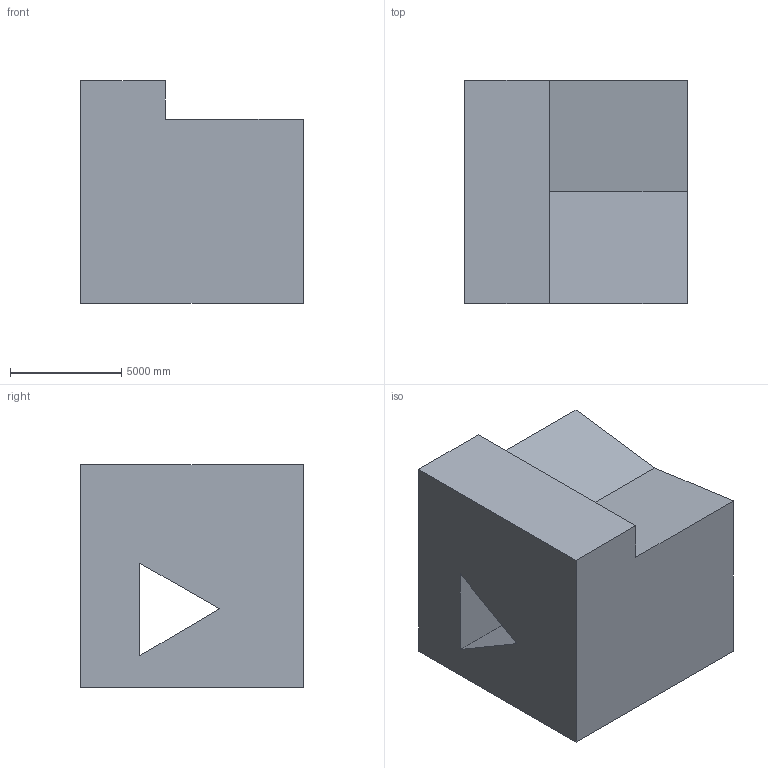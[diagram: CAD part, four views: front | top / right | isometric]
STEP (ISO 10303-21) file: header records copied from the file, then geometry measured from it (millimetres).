
FILE_DESCRIPTION (( 'STEP AP203' ), '1' );
FILE_NAME ('163.STEP', '2022-07-28T13:46:57', ( 'user' ), ( '' ), 'SwSTEP 2.0', 'SolidWorks 2021', '' );
FILE_SCHEMA (( 'CONFIG_CONTROL_DESIGN' ));
Length unit declared in the file: centimetre
Products named in the file (1): 163
Bounding box: 10000 x 10000 x 10000 mm (x, y, z)
Volume: 796474791408.6 mm3; surface area: 688620606.6 mm2
Topology: 1 solids, 1 shells, 12 faces, 30 edges, 20 vertices
Faces by surface type: plane 12
Entity records: 435 total; most frequent: CARTESIAN_POINT 63, ORIENTED_EDGE 60, DIRECTION 56, LINE 30, EDGE_CURVE 30, VECTOR 30, VERTEX_POINT 20, EDGE_LOOP 14
